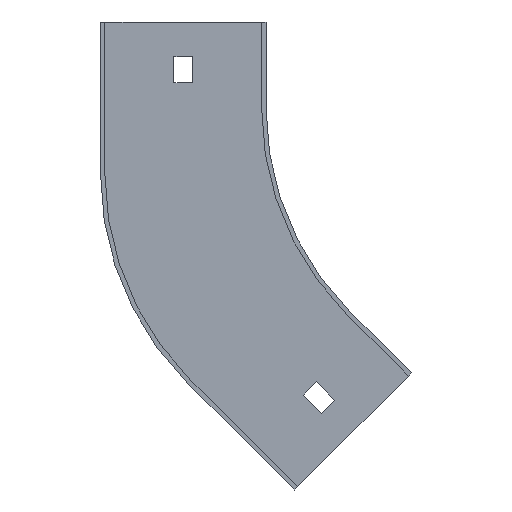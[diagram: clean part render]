
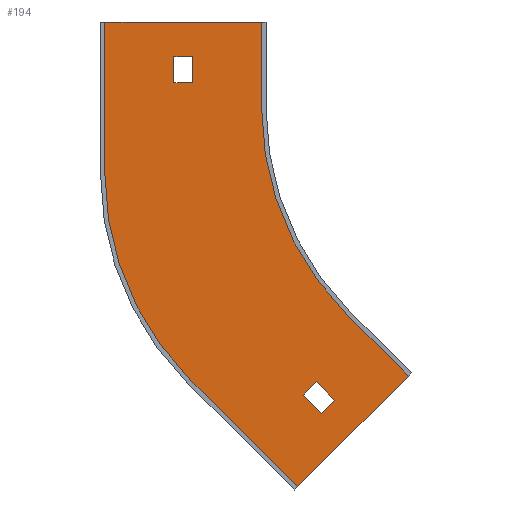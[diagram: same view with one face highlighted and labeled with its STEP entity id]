
A CAD part, front view. The second image highlights one B-rep face of the part: STEP entity #194.
In plain terms, the highlighted planar face has unit normal (0, -1, 0).
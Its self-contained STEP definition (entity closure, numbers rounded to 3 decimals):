
#1 = FACE_BOUND ( 'NONE', #410, .T. ) ;
#2 = VERTEX_POINT ( 'NONE', #743 ) ;
#10 = VECTOR ( 'NONE', #814, 1000. ) ;
#19 = CARTESIAN_POINT ( 'NONE',  ( -79.373, -1.5, -104.829 ) ) ;
#21 = CARTESIAN_POINT ( 'NONE',  ( -87.504, -1.5, -87.504 ) ) ;
#26 = CARTESIAN_POINT ( 'NONE',  ( 0., -1.5, 0. ) ) ;
#35 = VERTEX_POINT ( 'NONE', #71 ) ;
#36 = LINE ( 'NONE', #148, #192 ) ;
#45 = ORIENTED_EDGE ( 'NONE', *, *, #517, .F. ) ;
#48 = ORIENTED_EDGE ( 'NONE', *, *, #359, .T. ) ;
#50 = DIRECTION ( 'NONE',  ( 0., 0., -1. ) ) ;
#53 = CIRCLE ( 'NONE', #650, 100. ) ;
#56 = DIRECTION ( 'NONE',  ( 0.707, 0., 0.707 ) ) ;
#59 = LINE ( 'NONE', #703, #117 ) ;
#63 = VERTEX_POINT ( 'NONE', #263 ) ;
#71 = CARTESIAN_POINT ( 'NONE',  ( -100., -1.5, 30. ) ) ;
#74 = EDGE_CURVE ( 'NONE', #187, #501, #481, .T. ) ;
#84 = VECTOR ( 'NONE', #233, 1000. ) ;
#85 = CARTESIAN_POINT ( 'NONE',  ( -123.75, -1.5, 0. ) ) ;
#92 = EDGE_CURVE ( 'NONE', #2, #626, #164, .T. ) ;
#97 = CIRCLE ( 'NONE', #351, 100. ) ;
#108 = LINE ( 'NONE', #374, #757 ) ;
#111 = CARTESIAN_POINT ( 'NONE',  ( -85.737, -1.5, -98.465 ) ) ;
#114 = CARTESIAN_POINT ( 'NONE',  ( 12.728, -1.5, -12.728 ) ) ;
#117 = VECTOR ( 'NONE', #846, 1000. ) ;
#118 = VECTOR ( 'NONE', #554, 1000. ) ;
#124 = VERTEX_POINT ( 'NONE', #297 ) ;
#129 = ORIENTED_EDGE ( 'NONE', *, *, #92, .T. ) ;
#141 = LINE ( 'NONE', #686, #759 ) ;
#148 = CARTESIAN_POINT ( 'NONE',  ( 0., -1.5, 9. ) ) ;
#151 = CARTESIAN_POINT ( 'NONE',  ( -154., -1.5, -22.368 ) ) ;
#163 = DIRECTION ( 'NONE',  ( -1., 0., 0. ) ) ;
#164 = LINE ( 'NONE', #85, #118 ) ;
#166 = DIRECTION ( 'NONE',  ( 0., 0., -1. ) ) ;
#169 = LINE ( 'NONE', #497, #253 ) ;
#171 = LINE ( 'NONE', #437, #612 ) ;
#172 = ORIENTED_EDGE ( 'NONE', *, *, #781, .F. ) ;
#187 = VERTEX_POINT ( 'NONE', #396 ) ;
#188 = CARTESIAN_POINT ( 'NONE',  ( 0., -1.5, 0. ) ) ;
#192 = VECTOR ( 'NONE', #163, 1000. ) ;
#194 = ADVANCED_FACE ( 'NONE', ( #592, #855, #1 ), #261, .T. ) ;
#206 = VERTEX_POINT ( 'NONE', #732 ) ;
#213 = ORIENTED_EDGE ( 'NONE', *, *, #74, .F. ) ;
#222 = EDGE_LOOP ( 'NONE', ( #372, #332, #172, #546 ) ) ;
#233 = DIRECTION ( 'NONE',  ( -0.707, 0., 0.707 ) ) ;
#235 = DIRECTION ( 'NONE',  ( 0., -1., 0. ) ) ;
#253 = VECTOR ( 'NONE', #630, 1000. ) ;
#261 = PLANE ( 'NONE',  #590 ) ;
#263 = CARTESIAN_POINT ( 'NONE',  ( -154., -1.5, 30. ) ) ;
#272 = ORIENTED_EDGE ( 'NONE', *, *, #512, .T. ) ;
#292 = EDGE_CURVE ( 'NONE', #607, #368, #628, .T. ) ;
#297 = CARTESIAN_POINT ( 'NONE',  ( -130.25, -1.5, 18. ) ) ;
#299 = CARTESIAN_POINT ( 'NONE',  ( -54., -1.5, -22.368 ) ) ;
#312 = CARTESIAN_POINT ( 'NONE',  ( -70.711, -1.5, -70.711 ) ) ;
#332 = ORIENTED_EDGE ( 'NONE', *, *, #461, .F. ) ;
#333 = EDGE_CURVE ( 'NONE', #368, #397, #141, .T. ) ;
#336 = DIRECTION ( 'NONE',  ( 1., 0., 0. ) ) ;
#343 = EDGE_CURVE ( 'NONE', #451, #187, #59, .T. ) ;
#351 = AXIS2_PLACEMENT_3D ( 'NONE', #299, #640, #771 ) ;
#359 = EDGE_CURVE ( 'NONE', #124, #2, #108, .T. ) ;
#360 = CARTESIAN_POINT ( 'NONE',  ( -87.681, -1.5, -130.108 ) ) ;
#361 = DIRECTION ( 'NONE',  ( 1., 0., 0. ) ) ;
#368 = VERTEX_POINT ( 'NONE', #633 ) ;
#372 = ORIENTED_EDGE ( 'NONE', *, *, #292, .F. ) ;
#374 = CARTESIAN_POINT ( 'NONE',  ( 0., -1.5, 18. ) ) ;
#382 = EDGE_CURVE ( 'NONE', #35, #702, #171, .T. ) ;
#391 = VECTOR ( 'NONE', #562, 1000. ) ;
#392 = LINE ( 'NONE', #407, #446 ) ;
#396 = CARTESIAN_POINT ( 'NONE',  ( -49.497, -1.5, -91.924 ) ) ;
#397 = VERTEX_POINT ( 'NONE', #111 ) ;
#407 = CARTESIAN_POINT ( 'NONE',  ( -155.5, -1.5, 30. ) ) ;
#410 = EDGE_LOOP ( 'NONE', ( #48, #129, #690, #272 ) ) ;
#416 = VECTOR ( 'NONE', #510, 1000. ) ;
#431 = ORIENTED_EDGE ( 'NONE', *, *, #738, .F. ) ;
#435 = LINE ( 'NONE', #489, #416 ) ;
#437 = CARTESIAN_POINT ( 'NONE',  ( -100., -1.5, 30. ) ) ;
#440 = CARTESIAN_POINT ( 'NONE',  ( -74.777, -1.5, -100.232 ) ) ;
#446 = VECTOR ( 'NONE', #336, 1000. ) ;
#451 = VERTEX_POINT ( 'NONE', #312 ) ;
#460 = VERTEX_POINT ( 'NONE', #579 ) ;
#461 = EDGE_CURVE ( 'NONE', #787, #607, #721, .T. ) ;
#481 = LINE ( 'NONE', #567, #391 ) ;
#489 = CARTESIAN_POINT ( 'NONE',  ( -130.25, -1.5, 0. ) ) ;
#492 = ORIENTED_EDGE ( 'NONE', *, *, #382, .F. ) ;
#497 = CARTESIAN_POINT ( 'NONE',  ( -92.101, -1.5, -92.101 ) ) ;
#499 = LINE ( 'NONE', #151, #10 ) ;
#501 = VERTEX_POINT ( 'NONE', #769 ) ;
#510 = DIRECTION ( 'NONE',  ( 0., 0., 1. ) ) ;
#512 = EDGE_CURVE ( 'NONE', #836, #124, #435, .T. ) ;
#517 = EDGE_CURVE ( 'NONE', #702, #451, #53, .T. ) ;
#518 = EDGE_CURVE ( 'NONE', #206, #460, #97, .T. ) ;
#532 = CARTESIAN_POINT ( 'NONE',  ( -130.25, -1.5, 9. ) ) ;
#534 = EDGE_CURVE ( 'NONE', #460, #63, #499, .T. ) ;
#546 = ORIENTED_EDGE ( 'NONE', *, *, #333, .F. ) ;
#554 = DIRECTION ( 'NONE',  ( 0., 0., -1. ) ) ;
#562 = DIRECTION ( 'NONE',  ( -0.707, 0., -0.707 ) ) ;
#567 = CARTESIAN_POINT ( 'NONE',  ( -48.437, -1.5, -90.863 ) ) ;
#578 = EDGE_LOOP ( 'NONE', ( #847, #656, #654, #431, #213, #651, #45, #492 ) ) ;
#579 = CARTESIAN_POINT ( 'NONE',  ( -154., -1.5, -22.368 ) ) ;
#590 = AXIS2_PLACEMENT_3D ( 'NONE', #188, #598, #858 ) ;
#592 = FACE_BOUND ( 'NONE', #222, .T. ) ;
#598 = DIRECTION ( 'NONE',  ( 0., -1., 0. ) ) ;
#599 = CARTESIAN_POINT ( 'NONE',  ( -100., -1.5, 0. ) ) ;
#607 = VERTEX_POINT ( 'NONE', #440 ) ;
#612 = VECTOR ( 'NONE', #50, 1000. ) ;
#615 = DIRECTION ( 'NONE',  ( -0.707, 0., -0.707 ) ) ;
#626 = VERTEX_POINT ( 'NONE', #853 ) ;
#628 = LINE ( 'NONE', #21, #800 ) ;
#630 = DIRECTION ( 'NONE',  ( 0.707, 0., -0.707 ) ) ;
#633 = CARTESIAN_POINT ( 'NONE',  ( -81.141, -1.5, -93.868 ) ) ;
#636 = VECTOR ( 'NONE', #56, 1000. ) ;
#640 = DIRECTION ( 'NONE',  ( 0., 1., 0. ) ) ;
#650 = AXIS2_PLACEMENT_3D ( 'NONE', #26, #235, #166 ) ;
#651 = ORIENTED_EDGE ( 'NONE', *, *, #343, .F. ) ;
#654 = ORIENTED_EDGE ( 'NONE', *, *, #518, .F. ) ;
#656 = ORIENTED_EDGE ( 'NONE', *, *, #534, .F. ) ;
#682 = DIRECTION ( 'NONE',  ( -0.707, 0., 0.707 ) ) ;
#686 = CARTESIAN_POINT ( 'NONE',  ( 6.364, -1.5, -6.364 ) ) ;
#690 = ORIENTED_EDGE ( 'NONE', *, *, #775, .T. ) ;
#701 = EDGE_CURVE ( 'NONE', #63, #35, #392, .T. ) ;
#702 = VERTEX_POINT ( 'NONE', #599 ) ;
#703 = CARTESIAN_POINT ( 'NONE',  ( -70.711, -1.5, -70.711 ) ) ;
#721 = LINE ( 'NONE', #114, #636 ) ;
#732 = CARTESIAN_POINT ( 'NONE',  ( -124.711, -1.5, -93.078 ) ) ;
#738 = EDGE_CURVE ( 'NONE', #501, #206, #822, .T. ) ;
#743 = CARTESIAN_POINT ( 'NONE',  ( -123.75, -1.5, 18. ) ) ;
#757 = VECTOR ( 'NONE', #361, 1000. ) ;
#759 = VECTOR ( 'NONE', #615, 1000. ) ;
#769 = CARTESIAN_POINT ( 'NONE',  ( -87.681, -1.5, -130.108 ) ) ;
#771 = DIRECTION ( 'NONE',  ( 0., 0., -1. ) ) ;
#775 = EDGE_CURVE ( 'NONE', #626, #836, #36, .T. ) ;
#781 = EDGE_CURVE ( 'NONE', #397, #787, #169, .T. ) ;
#787 = VERTEX_POINT ( 'NONE', #19 ) ;
#800 = VECTOR ( 'NONE', #682, 1000. ) ;
#814 = DIRECTION ( 'NONE',  ( 0., 0., 1. ) ) ;
#822 = LINE ( 'NONE', #360, #84 ) ;
#836 = VERTEX_POINT ( 'NONE', #532 ) ;
#846 = DIRECTION ( 'NONE',  ( 0.707, 0., -0.707 ) ) ;
#847 = ORIENTED_EDGE ( 'NONE', *, *, #701, .F. ) ;
#853 = CARTESIAN_POINT ( 'NONE',  ( -123.75, -1.5, 9. ) ) ;
#855 = FACE_OUTER_BOUND ( 'NONE', #578, .T. ) ;
#858 = DIRECTION ( 'NONE',  ( 0., 0., -1. ) ) ;
